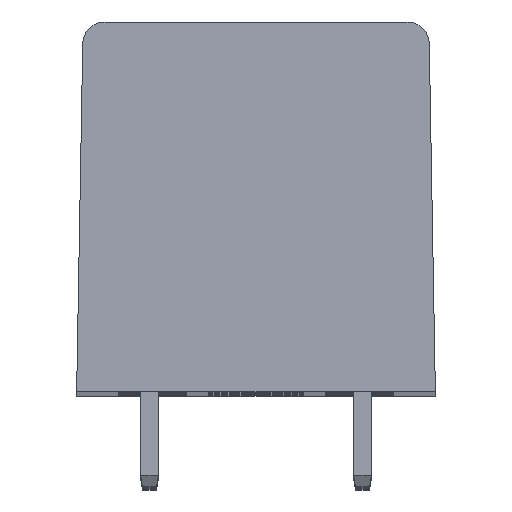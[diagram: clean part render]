
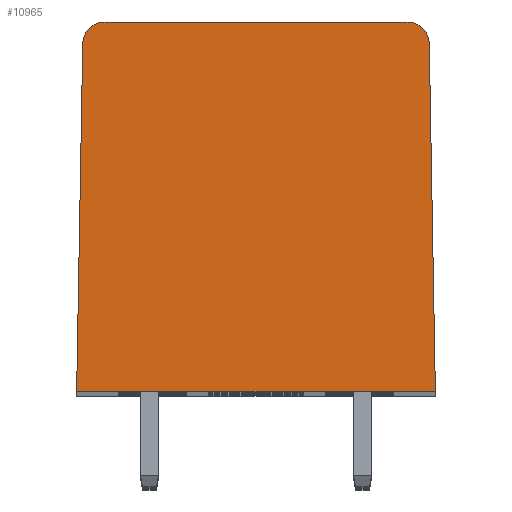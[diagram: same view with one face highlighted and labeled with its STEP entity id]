
A CAD part, top view. The second image highlights one B-rep face of the part: STEP entity #10965.
In plain terms, the highlighted planar face has unit normal (0, 0, 1).
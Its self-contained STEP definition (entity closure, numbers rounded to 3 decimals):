
#8694 = VERTEX_POINT ( 'NONE', #21939 ) ;
#8744 = EDGE_CURVE ( 'NONE', #8758, #8694, #22019, .T. ) ;
#8754 = EDGE_CURVE ( 'NONE', #8756, #8758, #22056, .T. ) ;
#8756 = VERTEX_POINT ( 'NONE', #22052 ) ;
#8758 = VERTEX_POINT ( 'NONE', #22051 ) ;
#10341 = VERTEX_POINT ( 'NONE', #24961 ) ;
#10346 = EDGE_CURVE ( 'NONE', #10341, #8756, #24960, .T. ) ;
#10930 = VERTEX_POINT ( 'NONE', #25887 ) ;
#10932 = EDGE_CURVE ( 'NONE', #8694, #10930, #25886, .T. ) ;
#10965 = ADVANCED_FACE ( 'NONE', ( #25955 ), #25954, .T. ) ;
#10966 = EDGE_LOOP ( 'NONE', ( #10967, #10970, #10971, #10972, #10973, #10974 ) ) ;
#10967 = ORIENTED_EDGE ( 'NONE', *, *, #10968, .F. ) ;
#10968 = EDGE_CURVE ( 'NONE', #10341, #10969, #25949, .T. ) ;
#10969 = VERTEX_POINT ( 'NONE', #25945 ) ;
#10970 = ORIENTED_EDGE ( 'NONE', *, *, #10346, .T. ) ;
#10971 = ORIENTED_EDGE ( 'NONE', *, *, #8754, .T. ) ;
#10972 = ORIENTED_EDGE ( 'NONE', *, *, #8744, .T. ) ;
#10973 = ORIENTED_EDGE ( 'NONE', *, *, #10932, .T. ) ;
#10974 = ORIENTED_EDGE ( 'NONE', *, *, #10975, .T. ) ;
#10975 = EDGE_CURVE ( 'NONE', #10930, #10969, #25944, .T. ) ;
#21939 = CARTESIAN_POINT ( 'NONE',  ( -7.729, 15.517, 0. ) ) ;
#22015 = DIRECTION ( 'NONE',  ( 0., -1., 0. ) ) ;
#22016 = DIRECTION ( 'NONE',  ( 0., 0., 1. ) ) ;
#22017 = CARTESIAN_POINT ( 'NONE',  ( -6.729, 15.5, 0. ) ) ;
#22018 = AXIS2_PLACEMENT_3D ( 'NONE', #22017, #22016, #22015 ) ;
#22019 = CIRCLE ( 'NONE', #22018, 1. ) ;
#22051 = CARTESIAN_POINT ( 'NONE',  ( -6.729, 16.5, 0. ) ) ;
#22052 = CARTESIAN_POINT ( 'NONE',  ( 6.729, 16.5, 0. ) ) ;
#22053 = DIRECTION ( 'NONE',  ( -1., 0., 0. ) ) ;
#22054 = VECTOR ( 'NONE', #22053, 1000. ) ;
#22055 = CARTESIAN_POINT ( 'NONE',  ( 0., 16.5, 0. ) ) ;
#22056 = LINE ( 'NONE', #22055, #22054 ) ;
#24956 = DIRECTION ( 'NONE',  ( 0., -1., 0. ) ) ;
#24957 = DIRECTION ( 'NONE',  ( 0., 0., 1. ) ) ;
#24958 = CARTESIAN_POINT ( 'NONE',  ( 6.729, 15.5, 0. ) ) ;
#24959 = AXIS2_PLACEMENT_3D ( 'NONE', #24958, #24957, #24956 ) ;
#24960 = CIRCLE ( 'NONE', #24959, 1. ) ;
#24961 = CARTESIAN_POINT ( 'NONE',  ( 7.729, 15.517, 0. ) ) ;
#25883 = DIRECTION ( 'NONE',  ( -0.017, -1., 0. ) ) ;
#25884 = VECTOR ( 'NONE', #25883, 1000. ) ;
#25885 = CARTESIAN_POINT ( 'NONE',  ( -7.729, 15.517, 0. ) ) ;
#25886 = LINE ( 'NONE', #25885, #25884 ) ;
#25887 = CARTESIAN_POINT ( 'NONE',  ( -8., 0., 0. ) ) ;
#25941 = DIRECTION ( 'NONE',  ( 1., 0., 0. ) ) ;
#25942 = VECTOR ( 'NONE', #25941, 1000. ) ;
#25943 = CARTESIAN_POINT ( 'NONE',  ( -8.096, 0., 0. ) ) ;
#25944 = LINE ( 'NONE', #25943, #25942 ) ;
#25945 = CARTESIAN_POINT ( 'NONE',  ( 8., 0., 0. ) ) ;
#25946 = DIRECTION ( 'NONE',  ( 0.017, -1., 0. ) ) ;
#25947 = VECTOR ( 'NONE', #25946, 1000. ) ;
#25948 = CARTESIAN_POINT ( 'NONE',  ( 7.865, 7.759, 0. ) ) ;
#25949 = LINE ( 'NONE', #25948, #25947 ) ;
#25950 = DIRECTION ( 'NONE',  ( 1., 0., 0. ) ) ;
#25951 = DIRECTION ( 'NONE',  ( 0., 0., 1. ) ) ;
#25952 = CARTESIAN_POINT ( 'NONE',  ( -8.096, 0., 0. ) ) ;
#25953 = AXIS2_PLACEMENT_3D ( 'NONE', #25952, #25951, #25950 ) ;
#25954 = PLANE ( 'NONE',  #25953 ) ;
#25955 = FACE_OUTER_BOUND ( 'NONE', #10966, .T. ) ;
